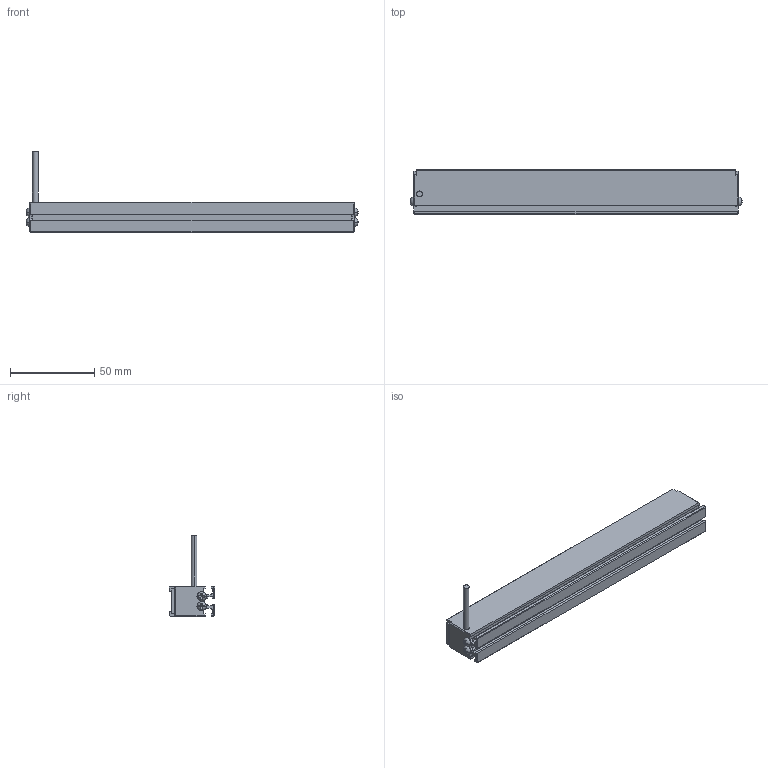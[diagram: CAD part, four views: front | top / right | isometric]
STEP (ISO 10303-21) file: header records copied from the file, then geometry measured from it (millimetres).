
FILE_DESCRIPTION((''),'2;1');
FILE_NAME('MV-LLDS-192-18_ASM','2020-12-29T',('Administrator'),(''),'PRO/ENGINEER BY PARAMETRIC TECHNOLOGY CORPORATION, 2010100','PRO/ENGINEER BY PARAMETRIC TECHNOLOGY CORPORATION, 2010100','');
FILE_SCHEMA(('CONFIG_CONTROL_DESIGN'));
Length unit declared in the file: millimetre
Products named in the file (3): BL_2_-_2_; M3-5_3; MV-LLDS-192-18_ASM
Assembly tree (5 placements, depth 2):
  MV-LLDS-192-18_ASM
    BL_2_-_2_
    M3-5_3  x4
Bounding box: 196.68 x 27 x 48 mm (x, y, z)
Volume: 76551.4 mm3; surface area: 35503.8 mm2
Topology: 5 solids, 13 shells, 281 faces, 736 edges, 472 vertices
Faces by surface type: plane 167, cylinder 66, cone 16, bspline 16, torus 8, sphere 8
Entity records: 6001 total; most frequent: CARTESIAN_POINT 1313, DIRECTION 952, ORIENTED_EDGE 942, EDGE_CURVE 481, VECTOR 340, LINE 340, VERTEX_POINT 313, AXIS2_PLACEMENT_3D 306
